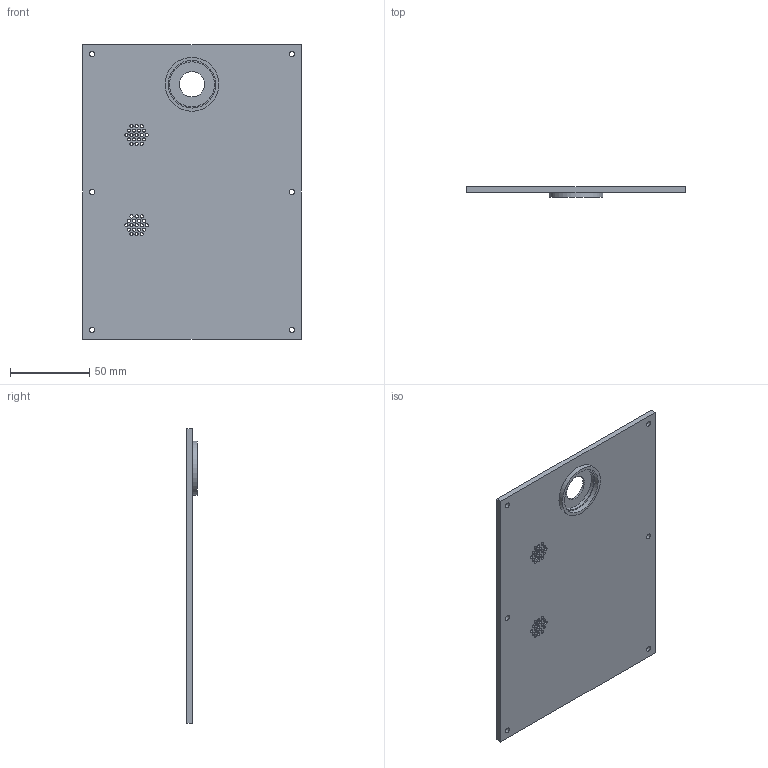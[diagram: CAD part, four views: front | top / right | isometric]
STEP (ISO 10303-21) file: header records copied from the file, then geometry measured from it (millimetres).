
FILE_DESCRIPTION(('Open CASCADE Model'),'2;1');
FILE_NAME('Open CASCADE Shape Model','2026-10-18T06:41:05',('Author'),( 'Open CASCADE'),'Open CASCADE STEP processor 7.9','Open CASCADE 7.9' ,'Unknown');
FILE_SCHEMA(('AUTOMOTIVE_DESIGN { 1 0 10303 214 1 1 1 1 }'));
Length unit declared in the file: millimetre
Products named in the file (1): Open CASCADE STEP translator 7.9 2
Bounding box: 138 x 6.5 x 186 mm (x, y, z)
Volume: 88177.7 mm3; surface area: 54779 mm2
Topology: 1 solids, 1 shells, 57 faces, 156 edges, 104 vertices
Faces by surface type: cylinder 48, plane 9
Full cylindrical faces by diameter (mm): 2 x38, 3.4 x6, 16 x1, 28.4 x1, 30 x1, 34 x1
Entity records: 4096 total; most frequent: DIRECTION 676, CARTESIAN_POINT 654, ORIENTED_EDGE 312, PCURVE 312, DEFINITIONAL_REPRESENTATION 312, LINE 276, VECTOR 276, CIRCLE 188
